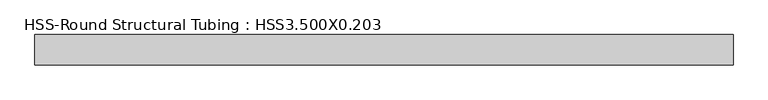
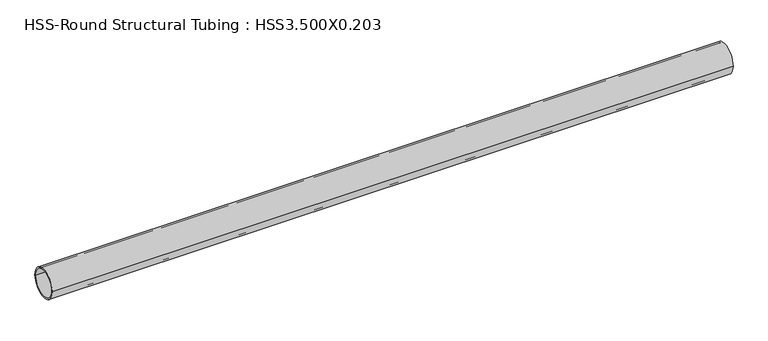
"""IFC4 building model written with IfcOpenShell, lengths in millimetres: member geometry, HSS-Round Structural Tubing : HSS3.500X0.203."""

from ifc_helpers import new_model, si_unit, point, frame, origin, origin_2d, place, context, project, spatial, circle_curve, trimmed, segment, composite_curve, outline, extrude, source, transform, mapped, element, save


def hss_round_structural_tubing_hss3_500x0_203_ff4150df(model_context):
    return source(origin(), model_context, "Body", "SweptSolid", [
        extrude(outline(composite_curve([segment(trimmed(circle_curve(origin_2d(), 44.45), [point((-44.45, 0.0))], [point((44.45, 0.0))], False, "CARTESIAN"), True, "CONTINUOUS"), segment(trimmed(circle_curve(origin_2d(), 44.45), [point((44.45, 0.0))], [point((-44.45, 0.0))], False, "CARTESIAN"), True, "CONTINUOUS")], self_intersect=False), holes=[composite_curve([segment(trimmed(circle_curve(origin_2d(), 39.6494), [point((39.6494, 0.0))], [point((-39.6494, 0.0))], True, "CARTESIAN"), True, "CONTINUOUS"), segment(trimmed(circle_curve(origin_2d(), 39.6494), [point((-39.6494, 0.0))], [point((39.6494, 0.0))], True, "CARTESIAN"), True, "CONTINUOUS")], self_intersect=False)]), frame((-1015.4401364, 0.0, 0.0), z_axis=(1.0, 0.0, 0.0), x_axis=(0.0, 1.0, 0.0)), (0.0, 0.0, 1.0), 2030.8802727),
    ])


if __name__ == "__main__":
    model = new_model("IFC4")
    model_context = context("Model", 3, world=origin())
    ifc_project = project(units=[si_unit("LENGTHUNIT", "METRE", prefix="MILLI")], contexts=[model_context])
    site = spatial("IfcSite", under=ifc_project)
    building = spatial("IfcBuilding", under=site)
    placement = place(None, origin())
    hss_round_structural_tubing_hss3_500x0_203_shape = hss_round_structural_tubing_hss3_500x0_203_ff4150df(model_context)
    element("IfcMember", 1, ObjectType="HSS-Round Structural Tubing : HSS3.500X0.203", at=placement, inside=building, context=model_context, shape_type="MappedRepresentation", body=[
        mapped(hss_round_structural_tubing_hss3_500x0_203_shape, transform((0.0, 0.0, 0.0), x_axis=(1.0, 0.0, 0.0), y_axis=(0.0, 1.0, 0.0), z_axis=(0.0, 0.0, 1.0))),
    ])
    save(model, "model.ifc")
